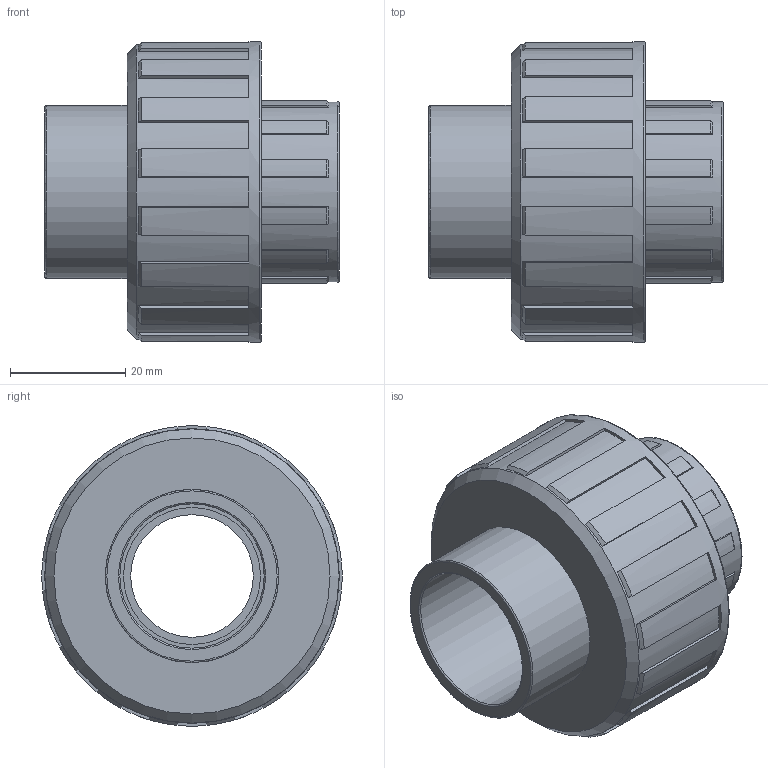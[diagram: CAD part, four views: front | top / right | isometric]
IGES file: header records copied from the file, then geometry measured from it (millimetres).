
Global section: file name: 050802025007.ipt; native system: Autodesk Inventor 2015; preprocessor: unknown; author: KIM; date: 20171207.164946; units: millimetre
Bounding box: 51 x 52 x 52 mm (x, y, z)
Volume: 46134.3 mm3; surface area: 13960.4 mm2
Topology: 1 solids, 1 shells, 133 faces, 390 edges, 264 vertices
Faces by surface type: plane 79, cone 29, cylinder 16, revolution 9
Full cylindrical faces by diameter (mm): 30 x1, 31.25 x1, 50.96 x1, 52 x1
